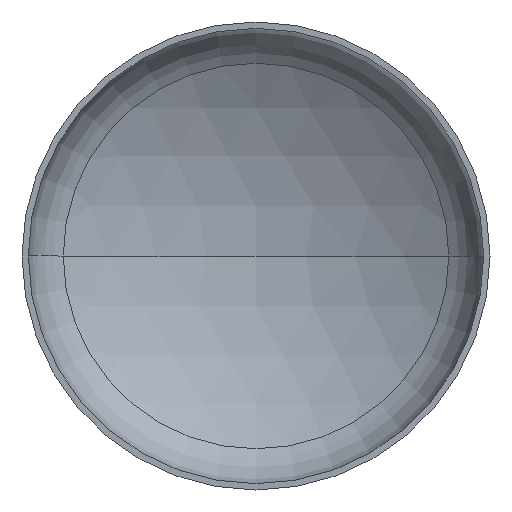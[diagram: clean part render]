
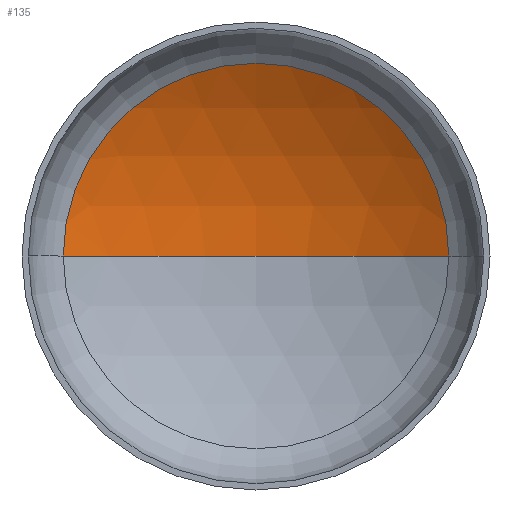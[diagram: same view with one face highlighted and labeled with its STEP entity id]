
A CAD part, front view. The second image highlights one B-rep face of the part: STEP entity #135.
In plain terms, the highlighted spherical face has radius 6400 mm.
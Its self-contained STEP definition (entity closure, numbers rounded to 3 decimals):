
#25 = VERTEX_POINT ( 'NONE', #284 ) ;
#37 = ORIENTED_EDGE ( 'NONE', *, *, #134, .T. ) ;
#46 = ORIENTED_EDGE ( 'NONE', *, *, #136, .F. ) ;
#70 = VERTEX_POINT ( 'NONE', #250 ) ;
#76 = VERTEX_POINT ( 'NONE', #253 ) ;
#89 = AXIS2_PLACEMENT_3D ( 'NONE', #292, #313, #298 ) ;
#92 = AXIS2_PLACEMENT_3D ( 'NONE', #206, #218, #186 ) ;
#95 = AXIS2_PLACEMENT_3D ( 'NONE', #198, #199, #300 ) ;
#107 = AXIS2_PLACEMENT_3D ( 'NONE', #307, #295, #293 ) ;
#133 = EDGE_CURVE ( 'NONE', #70, #25, #163, .T. ) ;
#134 = EDGE_CURVE ( 'NONE', #76, #70, #225, .T. ) ;
#135 = ADVANCED_FACE ( 'NONE', ( #399 ), #344, .F. ) ;
#136 = EDGE_CURVE ( 'NONE', #76, #25, #219, .T. ) ;
#163 = CIRCLE ( 'NONE', #107, 3295.319 ) ;
#186 = DIRECTION ( 'NONE',  ( 1., 0., 0. ) ) ;
#198 = CARTESIAN_POINT ( 'NONE',  ( 0., -4357.004, 0. ) ) ;
#199 = DIRECTION ( 'NONE',  ( 0., 0., -1. ) ) ;
#206 = CARTESIAN_POINT ( 'NONE',  ( 0., -4357.004, 0. ) ) ;
#218 = DIRECTION ( 'NONE',  ( 0., 0., 1. ) ) ;
#219 = CIRCLE ( 'NONE', #92, 6400. ) ;
#225 = CIRCLE ( 'NONE', #95, 6400. ) ;
#250 = CARTESIAN_POINT ( 'NONE',  ( 3295.319, 1129.423, 0. ) ) ;
#253 = CARTESIAN_POINT ( 'NONE',  ( 0., 2042.996, 0. ) ) ;
#284 = CARTESIAN_POINT ( 'NONE',  ( -3295.319, 1129.423, 0. ) ) ;
#292 = CARTESIAN_POINT ( 'NONE',  ( 0., -4357.004, 0. ) ) ;
#293 = DIRECTION ( 'NONE',  ( 1., 0., 0. ) ) ;
#295 = DIRECTION ( 'NONE',  ( 0., -1., 0. ) ) ;
#298 = DIRECTION ( 'NONE',  ( -1., 0., 0. ) ) ;
#300 = DIRECTION ( 'NONE',  ( -1., 0., 0. ) ) ;
#306 = EDGE_LOOP ( 'NONE', ( #46, #37, #358 ) ) ;
#307 = CARTESIAN_POINT ( 'NONE',  ( 0., 1129.423, 0. ) ) ;
#313 = DIRECTION ( 'NONE',  ( 0., 0., -1. ) ) ;
#344 = SPHERICAL_SURFACE ( 'NONE', #89, 6400. ) ;
#358 = ORIENTED_EDGE ( 'NONE', *, *, #133, .T. ) ;
#399 = FACE_OUTER_BOUND ( 'NONE', #306, .T. ) ;
